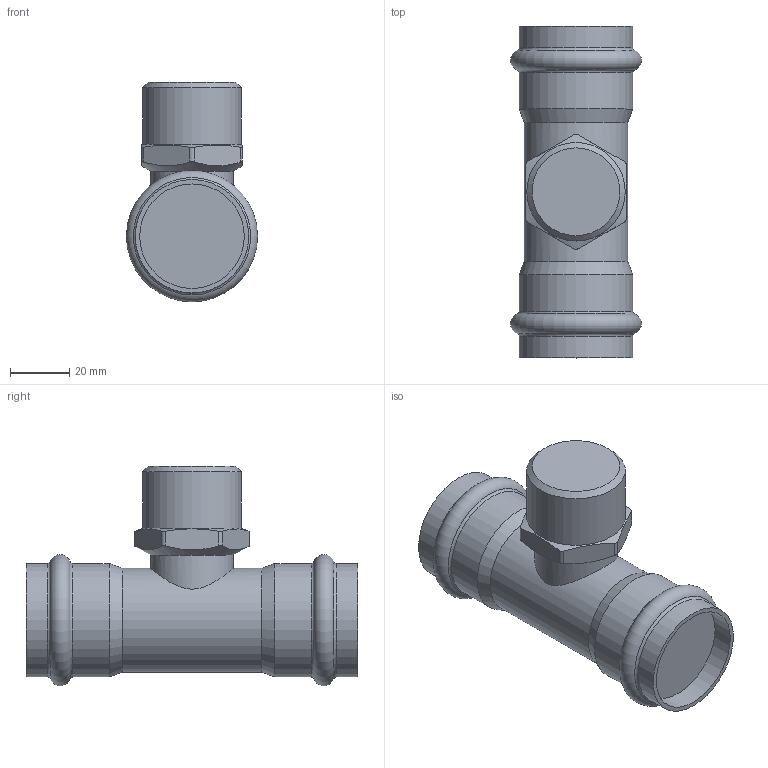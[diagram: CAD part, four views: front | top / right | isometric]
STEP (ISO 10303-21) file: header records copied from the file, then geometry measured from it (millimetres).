
FILE_DESCRIPTION(('STEP AP203'), '1');
FILE_NAME('VTi.933.I.350635', '', ('UNSPECIFIED'), ('UNSPECIFIED'), 'C3D Converter', 'C3D Toolkit', '');
FILE_SCHEMA(('CONFIG_CONTROL_DESIGN'));
Length unit declared in the file: millimetre
Bounding box: 44.28 x 112 x 74.14 mm (x, y, z)
Volume: 139422.2 mm3; surface area: 22059.9 mm2
Topology: 1 solids, 1 shells, 37 faces, 84 edges, 51 vertices
Faces by surface type: cylinder 15, plane 11, torus 6, cone 5
Full cylindrical faces by diameter (mm): 28 x1, 33.249 x1, 35 x1, 35.3 x2, 38.3 x4
Entity records: 2032 total; most frequent: CARTESIAN_POINT 1284, DIRECTION 134, ORIENTED_EDGE 126, EDGE_CURVE 63, AXIS2_PLACEMENT_3D 61, EDGE_LOOP 60, VERTEX_POINT 51, ADVANCED_FACE 37
